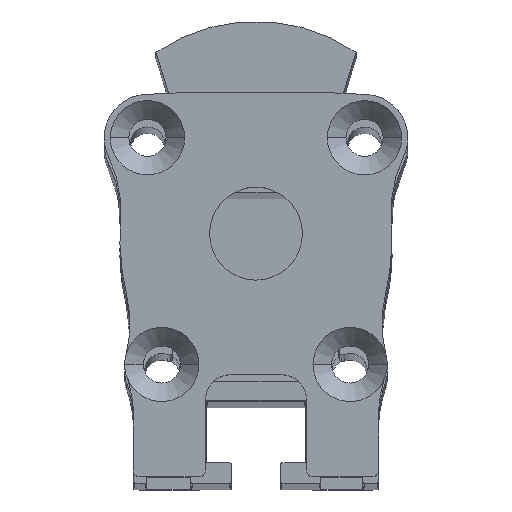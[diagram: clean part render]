
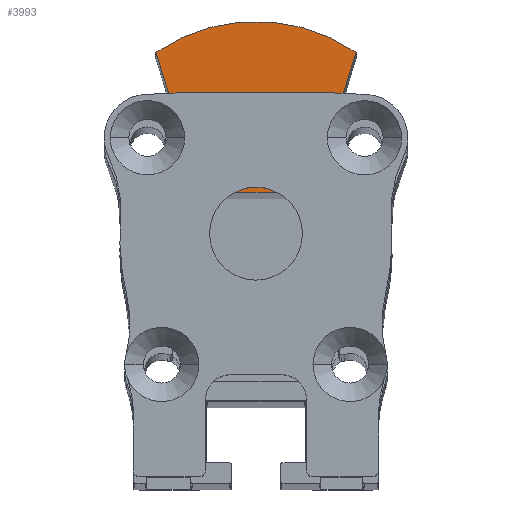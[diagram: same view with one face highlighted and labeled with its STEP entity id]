
A CAD part, top view. The second image highlights one B-rep face of the part: STEP entity #3993.
In plain terms, the highlighted planar face has unit normal (0, 0, 1).
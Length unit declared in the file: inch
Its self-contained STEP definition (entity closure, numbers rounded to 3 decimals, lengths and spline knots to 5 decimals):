
#3993=ADVANCED_FACE('',(#7809),#7810,.T.);
#4001=EDGE_CURVE('',#7813,#7819,#7822,.T.);
#4007=EDGE_CURVE('',#7827,#7819,#7830,.F.);
#4029=EDGE_CURVE('',#7861,#7862,#7863,.F.);
#4035=EDGE_CURVE('',#7869,#7870,#7871,.F.);
#4041=EDGE_CURVE('',#7870,#7861,#7877,.F.);
#4043=EDGE_CURVE('',#7869,#7879,#7880,.F.);
#4047=EDGE_CURVE('',#7813,#7862,#7884,.F.);
#4049=EDGE_CURVE('',#7886,#7887,#7888,.F.);
#4055=EDGE_CURVE('',#7827,#7894,#7895,.F.);
#4059=EDGE_CURVE('',#7894,#7886,#7899,.F.);
#4063=EDGE_CURVE('',#7901,#7887,#7904,.F.);
#4065=EDGE_CURVE('',#7879,#7901,#7906,.F.);
#7809=FACE_OUTER_BOUND('',#17972,.T.);
#7810=PLANE('',#17973);
#7813=VERTEX_POINT('',#17977);
#7819=VERTEX_POINT('',#17987);
#7822=LINE('',#17992,#17993);
#7827=VERTEX_POINT('',#18001);
#7830=LINE('',#18006,#18007);
#7861=VERTEX_POINT('',#18058);
#7862=VERTEX_POINT('',#18059);
#7863=LINE('',#18060,#18061);
#7869=VERTEX_POINT('',#18072);
#7870=VERTEX_POINT('',#18073);
#7871=LINE('',#18074,#18075);
#7877=LINE('',#18086,#18087);
#7879=VERTEX_POINT('',#18090);
#7880=LINE('',#18091,#18092);
#7884=LINE('',#18099,#18100);
#7886=VERTEX_POINT('',#18103);
#7887=VERTEX_POINT('',#18104);
#7888=LINE('',#18105,#18106);
#7894=VERTEX_POINT('',#18117);
#7895=LINE('',#18118,#18119);
#7899=LINE('',#18126,#18127);
#7901=VERTEX_POINT('',#18130);
#7904=LINE('',#18135,#18136);
#7906=CIRCLE('',#18139,0.56299);
#17972=EDGE_LOOP('',(#23681,#23682,#23683,#23684,#23685,#23686,#23687,#23688,#23689,#23690,#23691,#23692));
#17973=AXIS2_PLACEMENT_3D('',#23693,#23694,#23695);
#17977=CARTESIAN_POINT('',(-0.17932,0.15296,0.7406));
#17987=CARTESIAN_POINT('',(0.17932,0.15296,0.7406));
#17992=CARTESIAN_POINT('',(0.,0.15296,0.7406));
#17993=VECTOR('',#23699,1.0);
#18001=CARTESIAN_POINT('',(0.26301,0.4208,0.7406));
#18006=CARTESIAN_POINT('',(0.19145,0.19179,0.7406));
#18007=VECTOR('',#23702,1.0);
#18058=CARTESIAN_POINT('',(-0.21005,0.4208,0.7406));
#18059=CARTESIAN_POINT('',(-0.26301,0.4208,0.7406));
#18060=CARTESIAN_POINT('',(-0.12298,0.4208,0.7406));
#18061=VECTOR('',#23715,1.0);
#18072=CARTESIAN_POINT('',(-0.27532,0.46017,0.7406));
#18073=CARTESIAN_POINT('',(-0.21005,0.46017,0.7406));
#18074=CARTESIAN_POINT('',(-0.12298,0.46017,0.7406));
#18075=VECTOR('',#23718,1.0);
#18086=CARTESIAN_POINT('',(-0.21005,0.35333,0.7406));
#18087=VECTOR('',#23721,1.0);
#18090=CARTESIAN_POINT('',(-0.31832,0.59777,0.7406));
#18091=CARTESIAN_POINT('',(-0.19145,0.19179,0.7406));
#18092=VECTOR('',#23722,1.0);
#18099=CARTESIAN_POINT('',(-0.19145,0.19179,0.7406));
#18100=VECTOR('',#23724,1.0);
#18103=CARTESIAN_POINT('',(0.20856,0.46017,0.7406));
#18104=CARTESIAN_POINT('',(0.27532,0.46017,0.7406));
#18105=CARTESIAN_POINT('',(0.12223,0.46017,0.7406));
#18106=VECTOR('',#23725,1.0);
#18117=CARTESIAN_POINT('',(0.20856,0.4208,0.7406));
#18118=CARTESIAN_POINT('',(0.12223,0.4208,0.7406));
#18119=VECTOR('',#23728,1.0);
#18126=CARTESIAN_POINT('',(0.20856,0.35333,0.7406));
#18127=VECTOR('',#23730,1.0);
#18130=CARTESIAN_POINT('',(0.31832,0.59777,0.7406));
#18135=CARTESIAN_POINT('',(0.19145,0.19179,0.7406));
#18136=VECTOR('',#23732,1.0);
#18139=AXIS2_PLACEMENT_3D('',#23733,#23734,#23735);
#23681=ORIENTED_EDGE('',*,*,#4001,.T.);
#23682=ORIENTED_EDGE('',*,*,#4007,.F.);
#23683=ORIENTED_EDGE('',*,*,#4055,.T.);
#23684=ORIENTED_EDGE('',*,*,#4059,.T.);
#23685=ORIENTED_EDGE('',*,*,#4049,.T.);
#23686=ORIENTED_EDGE('',*,*,#4063,.F.);
#23687=ORIENTED_EDGE('',*,*,#4065,.F.);
#23688=ORIENTED_EDGE('',*,*,#4043,.F.);
#23689=ORIENTED_EDGE('',*,*,#4035,.T.);
#23690=ORIENTED_EDGE('',*,*,#4041,.T.);
#23691=ORIENTED_EDGE('',*,*,#4029,.T.);
#23692=ORIENTED_EDGE('',*,*,#4047,.F.);
#23693=CARTESIAN_POINT('',(0.,0.26619,0.7406));
#23694=DIRECTION('',(0.,0.,1.0));
#23695=DIRECTION('',(1.0,0.0,0.));
#23699=DIRECTION('',(1.0,0.0,0.));
#23702=DIRECTION('',(0.298,0.954,0.));
#23715=DIRECTION('',(1.0,0.0,0.));
#23718=DIRECTION('',(-1.0,0.0,0.));
#23721=DIRECTION('',(-0.0,1.0,0.));
#23722=DIRECTION('',(0.298,-0.954,0.));
#23724=DIRECTION('',(0.298,-0.954,0.));
#23725=DIRECTION('',(-1.0,0.0,0.));
#23728=DIRECTION('',(1.0,0.0,0.));
#23730=DIRECTION('',(-0.0,-1.0,0.));
#23732=DIRECTION('',(0.298,0.954,0.));
#23733=CARTESIAN_POINT('',(0.,0.13341,0.7406));
#23734=DIRECTION('',(0.,0.,1.0));
#23735=DIRECTION('',(1.0,0.,0.));
